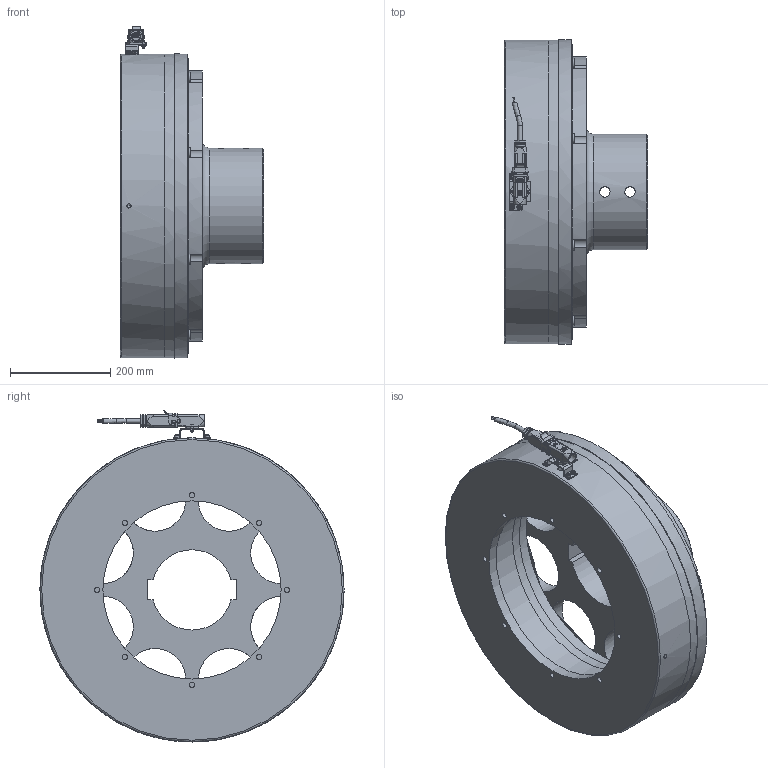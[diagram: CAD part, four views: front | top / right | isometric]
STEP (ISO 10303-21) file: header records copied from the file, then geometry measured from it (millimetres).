
FILE_DESCRIPTION(/* description */ (''),/* implementation_level */ '2;1');
FILE_NAME(/* name */ 'X:\INVENTOR\DISEGNI\08_Freni_Friz_Elettmag_Monodisco\08_28 EMFL_DF\EMFL_DF STEP\08_28_600_12 EMFL600_DF-C-ME_S@STEP.stp',/* time_stamp */ '2018-04-23T11:00:53+02:00',/* author */ ('stefano'),/* organization */ (''),/* preprocessor_version */ 'ST-DEVELOPER v17',/* originating_system */ 'Autodesk Inventor 2018',/* authorisation */ '');
FILE_SCHEMA (('AUTOMOTIVE_DESIGN { 1 0 10303 214 3 1 1 }'));
Products named in the file (1): 08_28_600_12 EMFL600_DF-C-ME - Spina_Substitute_1
Bounding box: 285 x 606 x 661.44 mm (x, y, z)
Volume: 27081658.7 mm3; surface area: 2068203.5 mm2
Topology: 3 solids, 3 shells, 1711 faces, 4944 edges, 3288 vertices
Faces by surface type: plane 1034, cylinder 528, cone 100, torus 25, bspline 21, sphere 3
Full cylindrical faces by diameter (mm): 0.753 x1, 0.986 x1, 1.05 x1, 2.5 x2, 3 x3, 3.2 x1, 3.25 x2, 3.59 x1, 4 x3, 4.675 x2, 4.8 x2, 5 x20, 5.5 x2, 6 x2, 6.2 x1, 7 x1, 8.2 x2, 8.376 x1, 8.5 x4, 9.5 x2, 10.5 x8, 12 x1, 13.5 x2, 13.835 x8, 14 x16, 16 x2, 18 x1, 18.6 x1, 19.8 x16, 20 x16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
Entity records: 60081 total; most frequent: CARTESIAN_POINT 11719, DIRECTION 9862, ORIENTED_EDGE 9856, EDGE_CURVE 4928, AXIS2_PLACEMENT_3D 3477, VERTEX_POINT 3288, LINE 2908, VECTOR 2908
